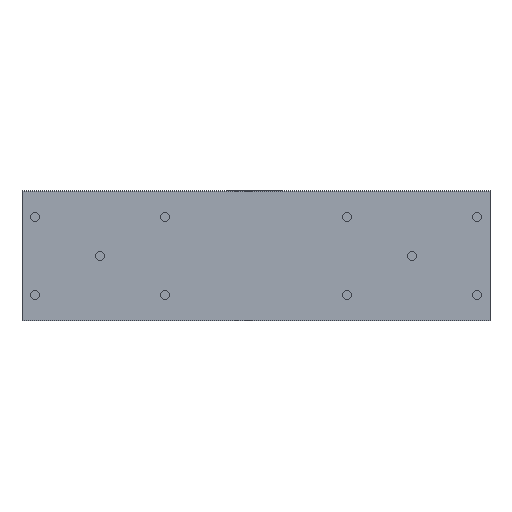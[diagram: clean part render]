
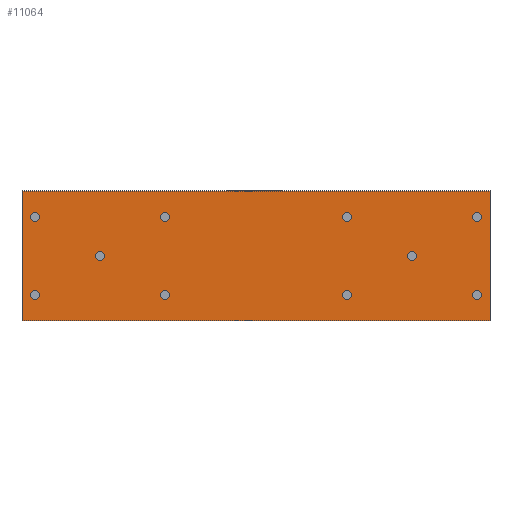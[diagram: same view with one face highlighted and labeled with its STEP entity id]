
A CAD part, front view. The second image highlights one B-rep face of the part: STEP entity #11064.
In plain terms, the highlighted planar face has unit normal (0, -1, 0).
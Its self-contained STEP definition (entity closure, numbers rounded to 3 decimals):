
#378=CIRCLE('',#11726,3.5);
#379=CIRCLE('',#11727,3.5);
#380=CIRCLE('',#11728,3.5);
#381=CIRCLE('',#11729,3.5);
#382=CIRCLE('',#11730,3.5);
#383=CIRCLE('',#11731,3.5);
#384=CIRCLE('',#11732,3.5);
#385=CIRCLE('',#11733,3.5);
#386=CIRCLE('',#11734,3.5);
#387=CIRCLE('',#11735,3.5);
#1148=ORIENTED_EDGE('',*,*,#4505,.F.);
#1149=ORIENTED_EDGE('',*,*,#4506,.F.);
#1150=ORIENTED_EDGE('',*,*,#4507,.F.);
#1151=ORIENTED_EDGE('',*,*,#4508,.F.);
#1152=ORIENTED_EDGE('',*,*,#4509,.F.);
#1153=ORIENTED_EDGE('',*,*,#4510,.F.);
#1154=ORIENTED_EDGE('',*,*,#4511,.T.);
#1155=ORIENTED_EDGE('',*,*,#4512,.F.);
#1156=ORIENTED_EDGE('',*,*,#4513,.F.);
#1157=ORIENTED_EDGE('',*,*,#4514,.F.);
#1158=ORIENTED_EDGE('',*,*,#4459,.T.);
#1159=ORIENTED_EDGE('',*,*,#4515,.F.);
#1160=ORIENTED_EDGE('',*,*,#4516,.F.);
#1161=ORIENTED_EDGE('',*,*,#4503,.T.);
#4459=EDGE_CURVE('',#6144,#6143,#7279,.T.);
#4503=EDGE_CURVE('',#6178,#6144,#7323,.T.);
#4505=EDGE_CURVE('',#6179,#6179,#378,.T.);
#4506=EDGE_CURVE('',#6180,#6180,#379,.T.);
#4507=EDGE_CURVE('',#6181,#6181,#380,.T.);
#4508=EDGE_CURVE('',#6182,#6182,#381,.T.);
#4509=EDGE_CURVE('',#6183,#6183,#382,.T.);
#4510=EDGE_CURVE('',#6184,#6184,#383,.T.);
#4511=EDGE_CURVE('',#6185,#6185,#384,.T.);
#4512=EDGE_CURVE('',#6186,#6186,#385,.T.);
#4513=EDGE_CURVE('',#6187,#6187,#386,.T.);
#4514=EDGE_CURVE('',#6188,#6188,#387,.T.);
#4515=EDGE_CURVE('',#6189,#6143,#7325,.T.);
#4516=EDGE_CURVE('',#6178,#6189,#7326,.T.);
#6143=VERTEX_POINT('',#16742);
#6144=VERTEX_POINT('',#16744);
#6178=VERTEX_POINT('',#16829);
#6179=VERTEX_POINT('',#16833);
#6180=VERTEX_POINT('',#16835);
#6181=VERTEX_POINT('',#16837);
#6182=VERTEX_POINT('',#16839);
#6183=VERTEX_POINT('',#16841);
#6184=VERTEX_POINT('',#16843);
#6185=VERTEX_POINT('',#16845);
#6186=VERTEX_POINT('',#16847);
#6187=VERTEX_POINT('',#16849);
#6188=VERTEX_POINT('',#16851);
#6189=VERTEX_POINT('',#16853);
#7279=LINE('',#16743,#8279);
#7323=LINE('',#16828,#8323);
#7325=LINE('',#16852,#8325);
#7326=LINE('',#16854,#8326);
#8279=VECTOR('',#13074,1000.);
#8323=VECTOR('',#13132,1000.);
#8325=VECTOR('',#13156,1000.);
#8326=VECTOR('',#13157,1000.);
#9261=EDGE_LOOP('',(#1148));
#9262=EDGE_LOOP('',(#1149));
#9263=EDGE_LOOP('',(#1150));
#9264=EDGE_LOOP('',(#1151));
#9265=EDGE_LOOP('',(#1152));
#9266=EDGE_LOOP('',(#1153));
#9267=EDGE_LOOP('',(#1154));
#9268=EDGE_LOOP('',(#1155));
#9269=EDGE_LOOP('',(#1156));
#9270=EDGE_LOOP('',(#1157));
#9271=EDGE_LOOP('',(#1158,#1159,#1160,#1161));
#10019=FACE_BOUND('',#9261,.T.);
#10020=FACE_BOUND('',#9262,.T.);
#10021=FACE_BOUND('',#9263,.T.);
#10022=FACE_BOUND('',#9264,.T.);
#10023=FACE_BOUND('',#9265,.T.);
#10024=FACE_BOUND('',#9266,.T.);
#10025=FACE_BOUND('',#9267,.T.);
#10026=FACE_BOUND('',#9268,.T.);
#10027=FACE_BOUND('',#9269,.T.);
#10028=FACE_BOUND('',#9270,.T.);
#10029=FACE_BOUND('',#9271,.T.);
#10777=PLANE('',#11725);
#11064=ADVANCED_FACE('',(#10019,#10020,#10021,#10022,#10023,#10024,#10025,
#10026,#10027,#10028,#10029),#10777,.F.);
#11725=AXIS2_PLACEMENT_3D('',#16831,#13134,#13135);
#11726=AXIS2_PLACEMENT_3D('',#16832,#13136,#13137);
#11727=AXIS2_PLACEMENT_3D('',#16834,#13138,#13139);
#11728=AXIS2_PLACEMENT_3D('',#16836,#13140,#13141);
#11729=AXIS2_PLACEMENT_3D('',#16838,#13142,#13143);
#11730=AXIS2_PLACEMENT_3D('',#16840,#13144,#13145);
#11731=AXIS2_PLACEMENT_3D('',#16842,#13146,#13147);
#11732=AXIS2_PLACEMENT_3D('',#16844,#13148,#13149);
#11733=AXIS2_PLACEMENT_3D('',#16846,#13150,#13151);
#11734=AXIS2_PLACEMENT_3D('',#16848,#13152,#13153);
#11735=AXIS2_PLACEMENT_3D('',#16850,#13154,#13155);
#13074=DIRECTION('',(0.,0.,-1.));
#13132=DIRECTION('',(-1.,0.,0.));
#13134=DIRECTION('',(0.,1.,0.));
#13135=DIRECTION('',(0.,0.,1.));
#13136=DIRECTION('',(0.,-1.,0.));
#13137=DIRECTION('',(0.,0.,-1.));
#13138=DIRECTION('',(0.,-1.,0.));
#13139=DIRECTION('',(0.,0.,-1.));
#13140=DIRECTION('',(0.,-1.,0.));
#13141=DIRECTION('',(0.,0.,-1.));
#13142=DIRECTION('',(0.,-1.,0.));
#13143=DIRECTION('',(0.,0.,-1.));
#13144=DIRECTION('',(0.,-1.,0.));
#13145=DIRECTION('',(0.,0.,-1.));
#13146=DIRECTION('',(0.,-1.,0.));
#13147=DIRECTION('',(0.,0.,-1.));
#13148=DIRECTION('',(0.,1.,0.));
#13149=DIRECTION('',(0.,0.,1.));
#13150=DIRECTION('',(0.,-1.,0.));
#13151=DIRECTION('',(0.,0.,-1.));
#13152=DIRECTION('',(0.,-1.,0.));
#13153=DIRECTION('',(0.,0.,-1.));
#13154=DIRECTION('',(0.,-1.,0.));
#13155=DIRECTION('',(0.,0.,-1.));
#13156=DIRECTION('',(-1.,0.,0.));
#13157=DIRECTION('',(0.,0.,-1.));
#16742=CARTESIAN_POINT('',(0.,0.,-49.7));
#16743=CARTESIAN_POINT('',(0.,0.,49.7));
#16744=CARTESIAN_POINT('',(0.,0.,49.7));
#16828=CARTESIAN_POINT('',(360.,0.,49.7));
#16829=CARTESIAN_POINT('',(360.,0.,49.7));
#16831=CARTESIAN_POINT('',(360.,0.,49.7));
#16832=CARTESIAN_POINT('',(250.,0.,-30.));
#16833=CARTESIAN_POINT('',(250.,0.,-33.5));
#16834=CARTESIAN_POINT('',(250.,0.,30.));
#16835=CARTESIAN_POINT('',(250.,0.,26.5));
#16836=CARTESIAN_POINT('',(110.,0.,-30.));
#16837=CARTESIAN_POINT('',(110.,0.,-33.5));
#16838=CARTESIAN_POINT('',(110.,0.,30.));
#16839=CARTESIAN_POINT('',(110.,0.,26.5));
#16840=CARTESIAN_POINT('',(300.,0.,0.));
#16841=CARTESIAN_POINT('',(300.,0.,-3.5));
#16842=CARTESIAN_POINT('',(60.,0.,0.));
#16843=CARTESIAN_POINT('',(60.,0.,-3.5));
#16844=CARTESIAN_POINT('',(350.,0.,30.));
#16845=CARTESIAN_POINT('',(350.,0.,33.5));
#16846=CARTESIAN_POINT('',(350.,0.,-30.));
#16847=CARTESIAN_POINT('',(350.,0.,-33.5));
#16848=CARTESIAN_POINT('',(10.,0.,-30.));
#16849=CARTESIAN_POINT('',(10.,0.,-33.5));
#16850=CARTESIAN_POINT('',(10.,0.,30.));
#16851=CARTESIAN_POINT('',(10.,0.,26.5));
#16852=CARTESIAN_POINT('',(360.,0.,-49.7));
#16853=CARTESIAN_POINT('',(360.,0.,-49.7));
#16854=CARTESIAN_POINT('',(360.,0.,49.7));
